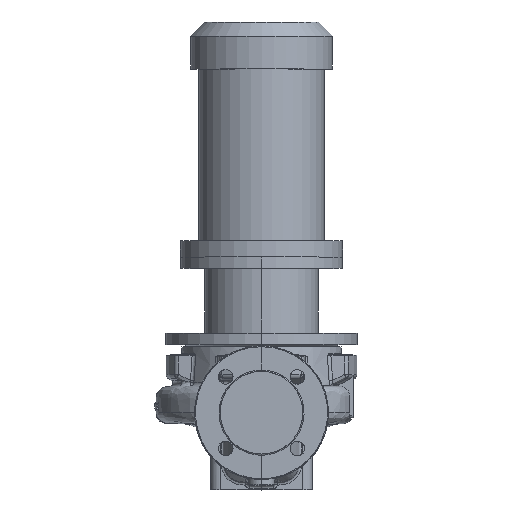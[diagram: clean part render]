
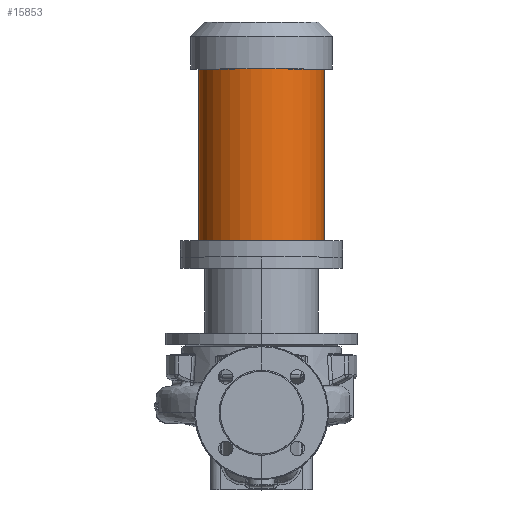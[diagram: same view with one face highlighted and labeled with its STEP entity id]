
A CAD part, top view. The second image highlights one B-rep face of the part: STEP entity #15853.
In plain terms, the highlighted cylindrical face has radius 77.5 mm (diameter 155 mm), a partial arc.
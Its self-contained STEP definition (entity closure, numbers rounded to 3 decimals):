
#2551 = VERTEX_POINT ( 'NONE', #18120 ) ;
#4775 = DIRECTION ( 'NONE',  ( -1., 0., 0. ) ) ;
#7257 = DIRECTION ( 'NONE',  ( 0., -1., 0. ) ) ;
#11645 = VERTEX_POINT ( 'NONE', #71425 ) ;
#15853 = ADVANCED_FACE ( 'NONE', ( #20617 ), #24114, .T. ) ;
#16203 = ORIENTED_EDGE ( 'NONE', *, *, #36823, .T. ) ;
#16586 = CARTESIAN_POINT ( 'NONE',  ( -77.5, 424.3, 0. ) ) ;
#16938 = AXIS2_PLACEMENT_3D ( 'NONE', #27916, #67671, #4775 ) ;
#17535 = DIRECTION ( 'NONE',  ( -1., 0., 0. ) ) ;
#18120 = CARTESIAN_POINT ( 'NONE',  ( -77.5, 212.3, 0. ) ) ;
#20617 = FACE_OUTER_BOUND ( 'NONE', #61209, .T. ) ;
#21453 = LINE ( 'NONE', #69165, #57839 ) ;
#24114 = CYLINDRICAL_SURFACE ( 'NONE', #26784, 77.5 ) ;
#25233 = AXIS2_PLACEMENT_3D ( 'NONE', #53149, #71074, #65825 ) ;
#26784 = AXIS2_PLACEMENT_3D ( 'NONE', #57543, #45871, #17535 ) ;
#27916 = CARTESIAN_POINT ( 'NONE',  ( 0., 212.3, 0. ) ) ;
#28024 = ORIENTED_EDGE ( 'NONE', *, *, #69480, .T. ) ;
#28179 = VERTEX_POINT ( 'NONE', #16586 ) ;
#28679 = DIRECTION ( 'NONE',  ( 0., -1., 0. ) ) ;
#29236 = LINE ( 'NONE', #34395, #57707 ) ;
#30813 = CIRCLE ( 'NONE', #25233, 77.5 ) ;
#32126 = CARTESIAN_POINT ( 'NONE',  ( 77.5, 424.3, 0. ) ) ;
#34395 = CARTESIAN_POINT ( 'NONE',  ( 77.5, 192.3, 0. ) ) ;
#36823 = EDGE_CURVE ( 'NONE', #28179, #2551, #21453, .T. ) ;
#38367 = ORIENTED_EDGE ( 'NONE', *, *, #48827, .F. ) ;
#41893 = EDGE_CURVE ( 'NONE', #67183, #11645, #29236, .T. ) ;
#45871 = DIRECTION ( 'NONE',  ( 0., -1., 0. ) ) ;
#48827 = EDGE_CURVE ( 'NONE', #11645, #2551, #70545, .T. ) ;
#53149 = CARTESIAN_POINT ( 'NONE',  ( 0., 424.3, 0. ) ) ;
#55092 = ORIENTED_EDGE ( 'NONE', *, *, #41893, .F. ) ;
#57543 = CARTESIAN_POINT ( 'NONE',  ( 0., 192.3, 0. ) ) ;
#57707 = VECTOR ( 'NONE', #28679, 1000. ) ;
#57839 = VECTOR ( 'NONE', #7257, 1000. ) ;
#61209 = EDGE_LOOP ( 'NONE', ( #55092, #28024, #16203, #38367 ) ) ;
#65825 = DIRECTION ( 'NONE',  ( -1., 0., 0. ) ) ;
#67183 = VERTEX_POINT ( 'NONE', #32126 ) ;
#67671 = DIRECTION ( 'NONE',  ( 0., -1., 0. ) ) ;
#69165 = CARTESIAN_POINT ( 'NONE',  ( -77.5, 192.3, 0. ) ) ;
#69480 = EDGE_CURVE ( 'NONE', #67183, #28179, #30813, .T. ) ;
#70545 = CIRCLE ( 'NONE', #16938, 77.5 ) ;
#71074 = DIRECTION ( 'NONE',  ( 0., -1., 0. ) ) ;
#71425 = CARTESIAN_POINT ( 'NONE',  ( 77.5, 212.3, 0. ) ) ;
